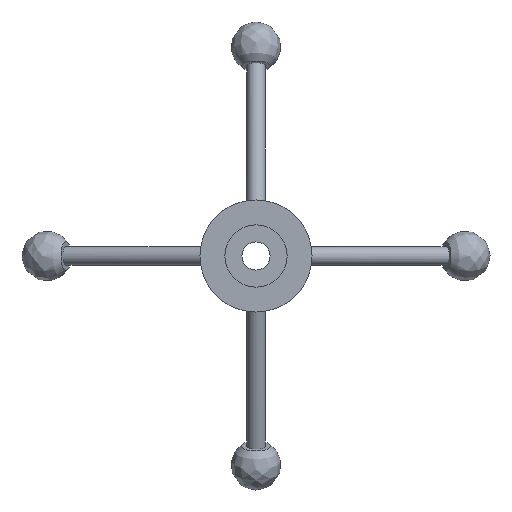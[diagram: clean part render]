
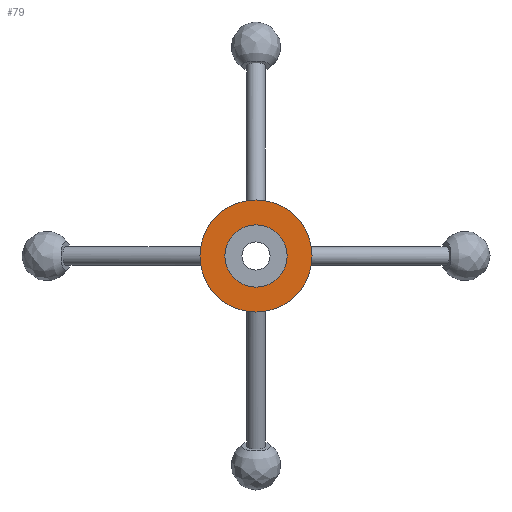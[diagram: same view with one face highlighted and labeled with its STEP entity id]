
A CAD part, front view. The second image highlights one B-rep face of the part: STEP entity #79.
In plain terms, the highlighted planar face has unit normal (0, -1, 0).
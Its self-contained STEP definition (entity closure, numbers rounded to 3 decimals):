
#79 = ADVANCED_FACE( '', ( #107, #108 ), #109, .F. );
#107 = FACE_BOUND( '', #202, .T. );
#108 = FACE_OUTER_BOUND( '', #203, .T. );
#109 = PLANE( '', #204 );
#202 = EDGE_LOOP( '', ( #370 ) );
#203 = EDGE_LOOP( '', ( #371 ) );
#204 = AXIS2_PLACEMENT_3D( '', #372, #373, #374 );
#370 = ORIENTED_EDGE( '', *, *, #446, .F. );
#371 = ORIENTED_EDGE( '', *, *, #447, .T. );
#372 = CARTESIAN_POINT( '', ( 36., 14., 0. ) );
#373 = DIRECTION( '', ( 0., 1., 0. ) );
#374 = DIRECTION( '', ( 0., 0., 1. ) );
#446 = EDGE_CURVE( '', #473, #473, #474, .T. );
#447 = EDGE_CURVE( '', #475, #475, #476, .T. );
#473 = VERTEX_POINT( '', #593 );
#474 = CIRCLE( '', #594, 20. );
#475 = VERTEX_POINT( '', #595 );
#476 = CIRCLE( '', #596, 36. );
#593 = CARTESIAN_POINT( '', ( 0., 14., -20. ) );
#594 = AXIS2_PLACEMENT_3D( '', #883, #884, #885 );
#595 = CARTESIAN_POINT( '', ( 0., 14., -36. ) );
#596 = AXIS2_PLACEMENT_3D( '', #886, #887, #888 );
#883 = CARTESIAN_POINT( '', ( 0., 14., 0. ) );
#884 = DIRECTION( '', ( 0., -1., 0. ) );
#885 = DIRECTION( '', ( 0., 0., -1. ) );
#886 = CARTESIAN_POINT( '', ( 0., 14., 0. ) );
#887 = DIRECTION( '', ( 0., -1., 0. ) );
#888 = DIRECTION( '', ( 0., 0., -1. ) );
